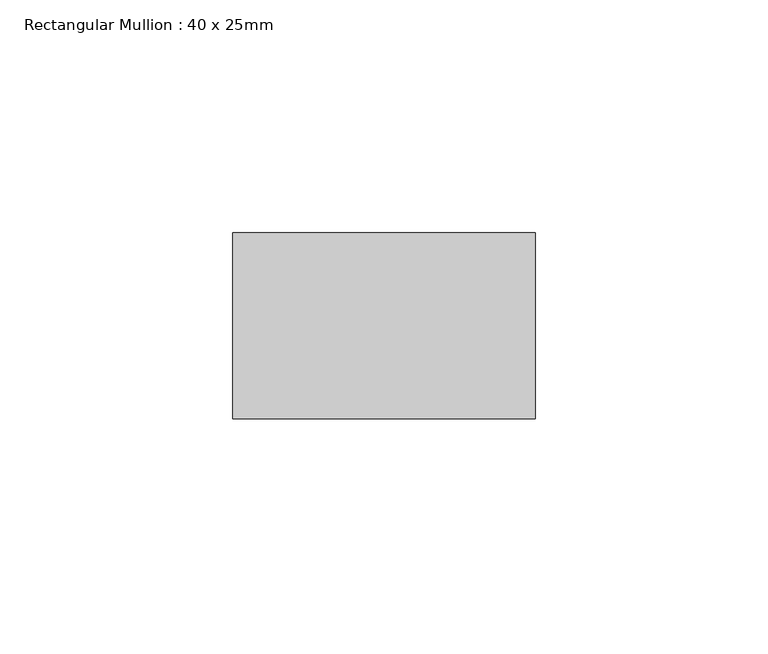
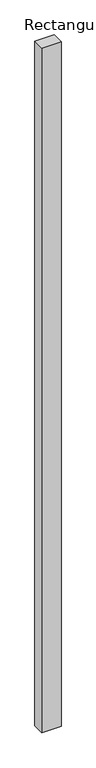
"""IFC4 building model written with IfcOpenShell, lengths in millimetres: member geometry, Rectangular Mullion : 40 x 25mm."""

from ifc_helpers import new_model, si_unit, frame, origin, place, context, project, spatial, polyline, outline, extrude, source, transform, mapped, element, save


def rectangular_mullion_40_x_25mm_4295fe52(model_context):
    return source(origin(), model_context, "Body", "SweptSolid", [
        extrude(outline(polyline([(0.0, -20.0), (0.0, -60.0), (-65.0, -60.0), (-65.0, -20.0), (0.0, -20.0)])), frame((0.0, 0.0, -2438.6), z_axis=(0.0, 0.0, 1.0), x_axis=(1.0, 0.0, 0.0)), (0.0, 0.0, 1.0), 2438.6),
    ])


if __name__ == "__main__":
    model = new_model("IFC4")
    model_context = context("Model", 3, world=origin())
    ifc_project = project(units=[si_unit("LENGTHUNIT", "METRE", prefix="MILLI")], contexts=[model_context])
    site = spatial("IfcSite", under=ifc_project)
    building = spatial("IfcBuilding", under=site)
    placement = place(None, origin())
    rectangular_mullion_40_x_25mm_shape = rectangular_mullion_40_x_25mm_4295fe52(model_context)
    element("IfcMember", 1, ObjectType="Rectangular Mullion : 40 x 25mm", at=placement, inside=building, context=model_context, shape_type="MappedRepresentation", body=[
        mapped(rectangular_mullion_40_x_25mm_shape, transform((0.0, 0.0, 0.0), x_axis=(1.0, 0.0, 0.0), y_axis=(0.0, 1.0, 0.0), z_axis=(0.0, 0.0, 1.0))),
    ])
    save(model, "model.ifc")
